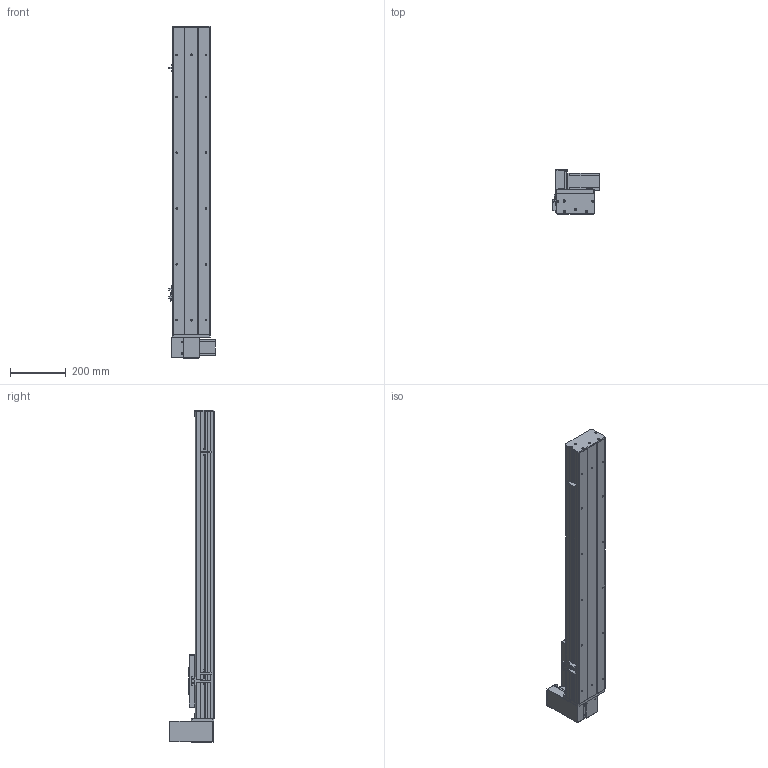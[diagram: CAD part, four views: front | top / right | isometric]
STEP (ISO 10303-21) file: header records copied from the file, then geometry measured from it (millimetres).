
FILE_DESCRIPTION (( 'STEP AP203' ), '1' );
FILE_NAME ('Y135CB-D90-S800-UR-P400W.STEP', '2020-02-18T04:00:15', ( '微软用户' ), ( '微软中国' ), 'SwSTEP 2.0', 'SolidWorks 2017', '' );
FILE_SCHEMA (( 'CONFIG_CONTROL_DESIGN' ));
Length unit declared in the file: millimetre
Products named in the file (18): C-雄赽釱--; 0B-萇儂楊擘啣; Y10B--々湍喘謫眊--666; san松下电机400不带刹车----; Y10B-耜蚾蟀諉啣----; 5CB --掛极耜裔啣-; 00B-俋欶BM--; C-詩湍揤踡え-陔; Y135CB-耜裔; Y135CB-D90-S800-UR-P400W; 135CB--詩湍-CE; 135CB---遴掛极.-; Y100-135俋离換覜ん--; 35CB---喘謫眊楊擘啣; Y135C-陔俋离換覜結え-; 0B-埴倛裔啣; 5C--俋欶; 0B-源倛裔啣
Assembly tree (21 placements, depth 2):
  Y135CB-D90-S800-UR-P400W
    Y135CB-耜裔
    135CB---遴掛极.-
    35CB---喘謫眊楊擘啣
    0B-埴倛裔啣
    0B-源倛裔啣
    0B-萇儂楊擘啣
    san松下电机400不带刹车----
    5CB --掛极耜裔啣-  x2
    C-詩湍揤踡え-陔  x2
    135CB--詩湍-CE
    Y100-135俋离換覜ん--  x3
    Y135C-陔俋离換覜結え-
    5C--俋欶
    C-雄赽釱--
    Y10B--々湍喘謫眊--666
    Y10B-耜蚾蟀諉啣----
    00B-俋欶BM--
Bounding box: 167.5 x 158.7 x 1188 mm (x, y, z)
Volume: 3867070.4 mm3; surface area: 1507715.5 mm2
Topology: 21 solids, 21 shells, 941 faces, 2509 edges, 1662 vertices
Faces by surface type: cylinder 469, plane 456, cone 16
Entity records: 29147 total; most frequent: DIRECTION 4841, CARTESIAN_POINT 4768, ORIENTED_EDGE 4494, EDGE_CURVE 2247, AXIS2_PLACEMENT_3D 1763, VERTEX_POINT 1490, VECTOR 1315, LINE 1315
